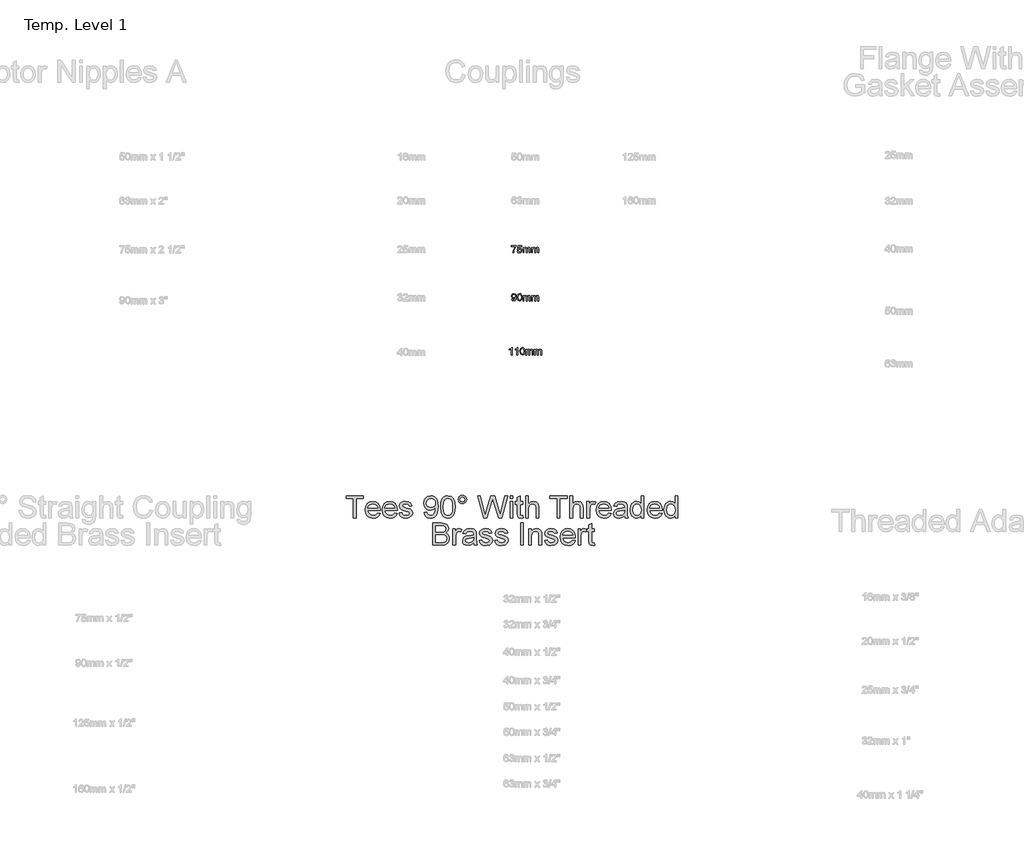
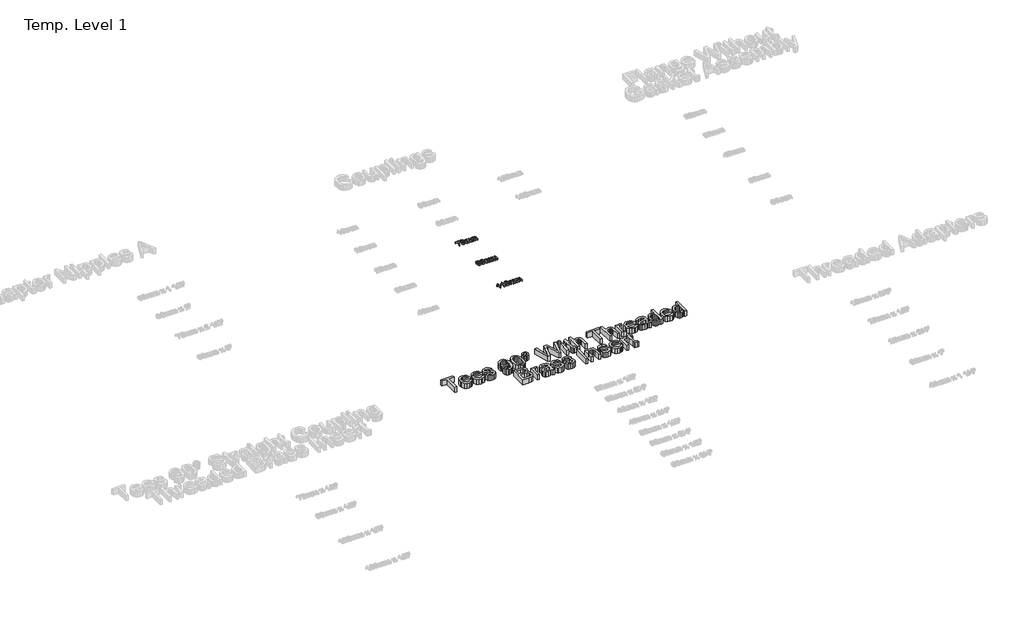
# One storey, part 19 of 62: 4 proxies.
"""IFC4 building model written with IfcOpenShell, lengths in millimetres."""

import ifcopenshell
import ifcopenshell.guid

model = None  # the IFC model being written
_history = None  # IfcOwnerHistory: only IFC2X3 demands one
_inside = {}  # id of a spatial element -> (the spatial element, [elements in it])
_under = {}  # id of a project, library or spatial element -> (it, [spatial elements below it])
_declared = {}  # id of a project -> (the project, [libraries it declares])
_typed = {}  # id of a type object -> (the type object, [elements of that type])
_made_of = {}  # id of a material, layer set ... -> (it, [elements and type objects made of it])


def new_model(schema):
    """Start an empty IFC model of exactly this schema.

    Asked for "IFC4X3", IfcOpenShell would pick the latest addendum, in which some entities
    have other attributes; the version numbers below select the first issue.
    IFC2X3 requires an IfcOwnerHistory on every rooted entity: one is made here for all.
    """
    global model, _history
    if schema == "IFC4X3":
        model = ifcopenshell.file(schema_version=(4, 3, 0, 0))
    else:
        model = ifcopenshell.file(schema=schema)
    _inside.clear()
    _under.clear()
    _declared.clear()
    _typed.clear()
    _made_of.clear()
    _history = None
    if model.schema == "IFC2X3":
        org = make("IfcOrganization", Name="unknown")
        user = make(
            "IfcPersonAndOrganization",
            ThePerson=make("IfcPerson", FamilyName="unknown"),
            TheOrganization=org,
        )
        app = make(
            "IfcApplication",
            ApplicationDeveloper=org,
            Version="unknown",
            ApplicationFullName="unknown",
            ApplicationIdentifier="unknown",
        )
        _history = make(
            "IfcOwnerHistory",
            OwningUser=user,
            OwningApplication=app,
            ChangeAction="ADDED",
            CreationDate=0,
        )
    return model


def make(cls, **values):
    """One entity of the class cls with the attributes given. An attribute that is None is left unset."""
    return model.create_entity(
        cls, **{name: value for name, value in values.items() if value is not None}
    )


def rooted(cls, **values):
    """An entity with a GlobalId (a new one), such as an element, a storey or a relation."""
    return make(cls, GlobalId=ifcopenshell.guid.new(), OwnerHistory=_history, **values)


def si_unit(unit_type, name, prefix=None):
    """IfcSIUnit, for example si_unit("LENGTHUNIT", "METRE", prefix="MILLI")."""
    return make("IfcSIUnit", UnitType=unit_type, Prefix=prefix, Name=name)


def assignment(units):
    """IfcUnitAssignment: the units of a project."""
    return None if units is None else make("IfcUnitAssignment", Units=units)


def point(xyz):
    """IfcCartesianPoint."""
    return None if xyz is None else make("IfcCartesianPoint", Coordinates=xyz)


def direction(xyz):
    """IfcDirection."""
    return None if xyz is None else make("IfcDirection", DirectionRatios=xyz)


def frame(location, z_axis=None, x_axis=None):
    """IfcAxis2Placement3D, a coordinate frame: its origin and axes. An axis left out is left unset."""
    return make(
        "IfcAxis2Placement3D",
        Location=point(location),
        Axis=direction(z_axis),
        RefDirection=direction(x_axis),
    )


def origin():
    """The frame at (0, 0, 0) with its axes left unset."""
    return frame((0.0, 0.0, 0.0))


def origin_with_axes():
    """The frame at (0, 0, 0) with the z axis (0, 0, 1) and the x axis (1, 0, 0) written out."""
    return frame((0.0, 0.0, 0.0), z_axis=(0.0, 0.0, 1.0), x_axis=(1.0, 0.0, 0.0))


def place(relative_to, where):
    """IfcLocalPlacement: puts the frame where relative to a parent placement (None: the world)."""
    return make(
        "IfcLocalPlacement", PlacementRelTo=relative_to, RelativePlacement=where
    )


def context(
    kind, dimensions, precision=None, world=None, true_north=None, identifier=None
):
    """IfcGeometricRepresentationContext, for example the 3D "Model" context."""
    return make(
        "IfcGeometricRepresentationContext",
        ContextIdentifier=identifier,
        ContextType=kind,
        CoordinateSpaceDimension=dimensions,
        Precision=precision,
        WorldCoordinateSystem=world,
        TrueNorth=true_north,
    )


def project(units=None, contexts=None):
    """IfcProject with its units and contexts."""
    return rooted(
        "IfcProject",
        Name="project",
        RepresentationContexts=contexts,
        UnitsInContext=assignment(units),
    )


def spatial(cls, under=None, at=None, **own):
    """A site, building, storey or space (cls), placed at a placement, below another one or the project."""
    s = rooted(cls, ObjectPlacement=at, **own)
    if under is not None:
        _under.setdefault(under.id(), (under, []))[1].append(s)
    return s


def polyline(points):
    """IfcPolyline through the points."""
    return make("IfcPolyline", Points=[point(p) for p in points])


def outline(outer, holes=None, kind="AREA"):
    """IfcArbitraryClosedProfileDef: a profile drawn as a closed curve; with holes, ...WithVoids."""
    if holes is None:
        return make("IfcArbitraryClosedProfileDef", ProfileType=kind, OuterCurve=outer)
    return make(
        "IfcArbitraryProfileDefWithVoids",
        ProfileType=kind,
        OuterCurve=outer,
        InnerCurves=holes,
    )


def extrude(swept, where, along, depth):
    """IfcExtrudedAreaSolid: the profile swept, set in the frame where, extruded along a direction by depth."""
    return make(
        "IfcExtrudedAreaSolid",
        SweptArea=swept,
        Position=where,
        ExtrudedDirection=direction(along),
        Depth=depth,
    )


def shape(context_of_items, identifier, shape_type, items):
    """IfcShapeRepresentation: the items that make up one representation, for example the "Body"."""
    return make(
        "IfcShapeRepresentation",
        ContextOfItems=context_of_items,
        RepresentationIdentifier=identifier,
        RepresentationType=shape_type,
        Items=items,
    )


def made_of(thing, what):
    """Note that an element or type object is made of a material, layer set ...; save() writes the relation."""
    if what is not None:
        _made_of.setdefault(what.id(), (what, []))[1].append(thing)
    return thing


def element(
    cls,
    number,
    at=None,
    inside=None,
    cuts=None,
    type_object=None,
    material=None,
    context=None,
    identifier="Body",
    shape_type=None,
    held_by="IfcProductDefinitionShape",
    body=None,
    shapes=None,
    **own,
):
    """One element of the class cls, such as IfcWall. Its Tag is "e" and its number.

    at: its placement. inside: the storey or other place that contains it. cuts: it is an
    opening in that element (IfcRelVoidsElement). A single representation is given by context,
    identifier, shape_type and body (its items); several are given by shapes. held_by: the class
    of the entity that holds the representations. save() writes the other relations.
    """
    e = rooted(cls, Tag="e%d" % number, ObjectPlacement=at, **own)
    if body is not None:
        shapes = [shape(context, identifier, shape_type, body)]
    if shapes is not None:
        e.Representation = make(held_by, Representations=shapes)
    if inside is not None:
        _inside.setdefault(inside.id(), (inside, []))[1].append(e)
    if cuts is not None:
        rooted(
            "IfcRelVoidsElement", RelatingBuildingElement=cuts, RelatedOpeningElement=e
        )
    if type_object is not None:
        _typed.setdefault(type_object.id(), (type_object, []))[1].append(e)
    return made_of(e, material)


def aggregate(whole, parts):
    """IfcRelAggregates: a whole, such as a stair, and the parts it consists of."""
    return rooted("IfcRelAggregates", RelatingObject=whole, RelatedObjects=parts)


def save(model, path):
    """Write the relations noted so far, then the file.

    IfcRelAggregates (storeys below a building ...), IfcRelContainedInSpatialStructure (elements
    in a storey), IfcRelDefinesByType, IfcRelAssociatesMaterial and IfcRelDeclares: one each for
    every whole, place, type object, material and project.
    """
    for whole, parts in _under.values():
        aggregate(whole, parts)
    for where, things in _inside.values():
        rooted(
            "IfcRelContainedInSpatialStructure",
            RelatedElements=things,
            RelatingStructure=where,
        )
    for kind, things in _typed.values():
        rooted("IfcRelDefinesByType", RelatedObjects=things, RelatingType=kind)
    for what, things in _made_of.values():
        rooted("IfcRelAssociatesMaterial", RelatedObjects=things, RelatingMaterial=what)
    for by, libraries in _declared.values():
        rooted("IfcRelDeclares", RelatingContext=by, RelatedDefinitions=libraries)
    model.write(path)


model = new_model("IFC4")

# Units and contexts
model_context = context("Model", 3, world=origin())
ifc_project = project(units=[si_unit("LENGTHUNIT", "METRE", prefix="MILLI")], contexts=[model_context])

# Site, building, storey
site = spatial("IfcSite", under=ifc_project)
building = spatial("IfcBuilding", under=site)
storey = spatial("IfcBuildingStorey", under=building, Name="Temp. Level 1", Elevation=0.0)

# Proxies
placement = place(None, origin())
element("IfcBuildingElementProxy", 1, Name="150mm Arial", ObjectType="150mm Arial", at=placement, inside=storey, context=model_context, shape_type="SweptSolid", body=[
    extrude(outline(polyline([(17356.5022519, -9979.0446709), (17356.5022519, -9849.8139016), (17308.0407135, -9849.8139016), (17308.0407135, -9831.3523632), (17423.4253288, -9831.3523632), (17423.4253288, -9849.8139016), (17374.9637904, -9849.8139016), (17374.9637904, -9979.0446709), (17356.5022519, -9979.0446709)])), origin_with_axes(), (0.0, 0.0, 1.0), 50.0),
    extrude(outline(polyline([(17517.8243673, -9946.7369786), (17535.9253288, -9949.0446709), (17529.4033938, -9962.683493), (17518.9962423, -9972.8788055), (17504.9382495, -9979.2339737), (17487.4637904, -9981.3523632), (17465.8021317, -9977.6970146), (17449.1344635, -9966.7309689), (17438.5064587, -9949.1663656), (17434.9637904, -9925.7153439), (17438.5425163, -9901.4755603), (17449.2786942, -9883.3475555), (17465.7210019, -9872.0434689), (17486.4181173, -9868.2754401), (17506.4707014, -9872.0344545), (17522.4938385, -9883.3114978), (17533.0001486, -9901.4034449), (17536.5022519, -9925.6071709), (17536.3940788, -9930.5831324), (17453.4253288, -9930.5831324), (17456.6209418, -9944.402243), (17464.0443192, -9954.5614978), (17474.7579611, -9960.808493), (17487.8243673, -9962.8908247), (17505.9253288, -9959.0326516), (17517.8243673, -9946.7369786)]), holes=[polyline([(17453.4253288, -9912.1215939), (17518.0407135, -9912.1215939), (17515.5437183, -9902.3679882), (17510.6488865, -9895.3908247), (17499.8856654, -9888.9004401), (17486.3460019, -9886.7369786), (17473.9015909, -9888.4632406), (17463.6116269, -9893.6420266), (17456.4586822, -9901.7144425), (17453.4253288, -9912.1215939)])]), origin_with_axes(), (0.0, 0.0, 1.0), 50.0),
    extrude(outline(polyline([(17630.9012904, -9946.7369786), (17649.0022519, -9949.0446709), (17642.4803168, -9962.683493), (17632.0731654, -9972.8788055), (17618.0151726, -9979.2339737), (17600.5407135, -9981.3523632), (17578.8790548, -9977.6970146), (17562.2113865, -9966.7309689), (17551.5833817, -9949.1663656), (17548.0407135, -9925.7153439), (17551.6194394, -9901.4755603), (17562.3556173, -9883.3475555), (17578.797925, -9872.0434689), (17599.4950404, -9868.2754401), (17619.5476245, -9872.0344545), (17635.5707615, -9883.3114978), (17646.0770716, -9901.4034449), (17649.579175, -9925.6071709), (17649.4710019, -9930.5831324), (17566.5022519, -9930.5831324), (17569.6978649, -9944.402243), (17577.1212423, -9954.5614978), (17587.8348841, -9960.808493), (17600.9012904, -9962.8908247), (17619.0022519, -9959.0326516), (17630.9012904, -9946.7369786)]), holes=[polyline([(17566.5022519, -9912.1215939), (17631.1176365, -9912.1215939), (17628.6206413, -9902.3679882), (17623.7258096, -9895.3908247), (17612.9625885, -9888.9004401), (17599.422925, -9886.7369786), (17586.9785139, -9888.4632406), (17576.68855, -9893.6420266), (17569.5356053, -9901.7144425), (17566.5022519, -9912.1215939)])]), origin_with_axes(), (0.0, 0.0, 1.0), 50.0),
    extrude(outline(polyline([(17661.1176365, -9946.7369786), (17679.579175, -9944.4292862), (17682.4908337, -9952.3259209), (17688.1248481, -9958.1312093), (17707.704175, -9962.8908247), (17726.5262904, -9958.5278439), (17732.6560981, -9948.2874593), (17726.4902327, -9939.9941901), (17707.4878288, -9934.729767), (17679.6873481, -9925.6973151), (17667.5539346, -9915.1504401), (17663.4253288, -9900.2586132), (17666.7426365, -9886.5026036), (17675.7931173, -9875.9917862), (17687.5298962, -9870.5290459), (17703.4133096, -9868.2754401), (17725.8772519, -9871.8992382), (17740.1560981, -9881.7069305), (17746.5022519, -9898.2754401), (17728.0407135, -9900.5831324), (17721.0996077, -9890.3968343), (17704.8556173, -9886.7369786), (17687.1873481, -9890.2345747), (17681.8868673, -9898.3836132), (17684.0863865, -9903.7562093), (17690.9734058, -9907.8307286), (17706.8748481, -9911.761017), (17733.9722038, -9920.4509209), (17746.5563385, -9930.2946709), (17751.1176365, -9946.3403439), (17745.7630692, -9964.0086132), (17730.3123481, -9976.8271228), (17707.4517712, -9981.3523632), (17688.8369875, -9979.1708728), (17675.2522519, -9972.6264016), (17666.1837423, -9961.7910651), (17661.1176365, -9946.7369786)])), origin_with_axes(), (0.0, 0.0, 1.0), 50.0),
    extrude(outline(polyline([(17827.2714827, -9942.1215939), (17845.7330212, -9939.8139016), (17848.8880692, -9950.2931685), (17854.0262904, -9957.4280843), (17869.7474442, -9962.8908247), (17884.6933577, -9959.3751997), (17894.8255692, -9949.9821709), (17900.8652327, -9933.9364978), (17903.5335019, -9912.5182286), (17903.4253288, -9908.9124593), (17888.6597038, -9922.9028439), (17868.4133096, -9928.2754401), (17851.5788745, -9924.9941901), (17837.5659538, -9915.1504401), (17828.1143313, -9899.9431084), (17824.9637904, -9880.5711132), (17828.2675764, -9860.5590939), (17838.1789346, -9844.8739978), (17853.0662543, -9834.7327718), (17871.297925, -9831.3523632), (17885.0674563, -9833.2814497), (17897.6020115, -9839.0687093), (17908.0857856, -9848.4256805), (17915.7029731, -9861.0639016), (17920.3408938, -9878.5338536), (17921.8868673, -9902.386017), (17920.345401, -9927.675981), (17915.7210019, -9947.2237574), (17908.0542351, -9961.9127598), (17897.3856654, -9972.6264016), (17884.1750284, -9979.1708728), (17868.8820596, -9981.3523632), (17853.0978048, -9978.7787454), (17840.5046558, -9971.057892), (17831.6975644, -9958.6765819), (17827.2714827, -9942.1215939)]), holes=[polyline([(17903.4253288, -9880.1384209), (17901.4331413, -9867.6264016), (17895.4565788, -9857.9989978), (17886.1807375, -9851.8601757), (17874.2907135, -9849.8139016), (17861.9589827, -9852.0179281), (17852.079175, -9858.6300074), (17845.5887904, -9868.7486973), (17843.4253288, -9881.4725555), (17845.4716029, -9892.8803079), (17851.610425, -9901.9352959), (17861.2468433, -9907.8442502), (17873.7859058, -9909.8139016), (17885.5812784, -9907.8442502), (17895.0779731, -9901.9352959), (17901.3384899, -9892.5467742), (17903.4253288, -9880.1384209)])]), origin_with_axes(), (0.0, 0.0, 1.0), 50.0),
    extrude(outline(polyline([(17938.0407135, -9906.3884209), (17939.3973841, -9882.7480963), (17943.4673962, -9863.8944305), (17950.2101846, -9849.5389617), (17959.5851846, -9839.3932286), (17971.6600043, -9833.3625795), (17986.5022519, -9831.3523632), (18008.0647519, -9836.1119786), (18022.9565788, -9849.8319305), (18031.610425, -9871.682892), (18034.9637904, -9906.3884209), (18033.6206413, -9929.893529), (18029.5911942, -9948.7021228), (18022.8889707, -9963.0711132), (18013.5274923, -9973.2574112), (18001.4256293, -9979.3286252), (17986.5022519, -9981.3523632), (17967.3195596, -9977.8367382), (17952.7522519, -9967.2898632), (17941.7185981, -9942.3108968), (17938.0407135, -9906.3884209)]), holes=[polyline([(17956.5022519, -9906.3523632), (17958.6657135, -9935.3923271), (17965.1560981, -9952.1997189), (17974.8195596, -9960.2180483), (17986.5022519, -9962.8908247), (17998.1849442, -9960.2090338), (18007.8484058, -9952.1636612), (18014.3387904, -9935.347255), (18016.5022519, -9906.3523632), (18014.4109058, -9877.9659449), (18008.1368673, -9861.0278439), (17998.4914346, -9852.6173872), (17986.2859058, -9849.8139016), (17974.7294154, -9852.2838536), (17965.4445596, -9859.6937093), (17958.7378288, -9877.6864978), (17956.5022519, -9906.3523632)])]), origin_with_axes(), (0.0, 0.0, 1.0), 50.0),
    extrude(outline(polyline([(18055.7330212, -9856.7009209), (18057.7657736, -9846.0548872), (18063.8640308, -9837.1215939), (18072.8108457, -9831.0639016), (18083.3892712, -9829.0446709), (18094.0893913, -9831.0639016), (18103.0407135, -9837.1215939), (18109.0984058, -9846.0548872), (18111.1176365, -9856.7009209), (18109.0848841, -9867.3334329), (18102.9866269, -9876.2982766), (18094.0217832, -9882.3965338), (18083.3892712, -9884.4292862), (18072.8108457, -9882.4100555), (18063.8640308, -9876.3523632), (18057.7657736, -9867.4010411), (18055.7330212, -9856.7009209)]), holes=[polyline([(18067.2714827, -9856.7369786), (18072.0130692, -9868.167267), (18083.4613865, -9872.8908247), (18094.8375885, -9868.167267), (18099.579175, -9856.7369786), (18094.8375885, -9845.3066901), (18083.4613865, -9840.5831324), (18072.0130692, -9845.3066901), (18067.2714827, -9856.7369786)])]), origin_with_axes(), (0.0, 0.0, 1.0), 50.0),
    extrude(outline(polyline([(18225.2402327, -9979.0446709), (18184.9637904, -9831.3523632), (18204.0022519, -9831.3523632), (18227.3676365, -9928.4196709), (18234.579175, -9958.3836132), (18242.2955212, -9931.8812093), (18271.5743673, -9831.3523632), (18299.0142712, -9831.3523632), (18320.2883096, -9904.2249593), (18336.1176365, -9958.3836132), (18343.1128288, -9929.2850555), (18366.6945596, -9831.3523632), (18385.7330212, -9831.3523632), (18345.4205212, -9979.0446709), (18325.6969635, -9979.0446709), (18290.2883096, -9865.1023632), (18285.3484058, -9849.2009209), (18279.7955212, -9868.3475555), (18247.5238865, -9979.0446709), (18225.2402327, -9979.0446709)])), origin_with_axes(), (0.0, 0.0, 1.0), 50.0),
    extrude(outline(polyline([(18401.8868673, -9979.0446709), (18401.8868673, -9870.5831324), (18420.3484058, -9870.5831324), (18420.3484058, -9979.0446709), (18401.8868673, -9979.0446709)])), origin_with_axes(), (0.0, 0.0, 1.0), 50.0),
    extrude(outline(polyline([(18401.8868673, -9849.8139016), (18401.8868673, -9831.3523632), (18420.3484058, -9831.3523632), (18420.3484058, -9849.8139016), (18401.8868673, -9849.8139016)])), origin_with_axes(), (0.0, 0.0, 1.0), 50.0),
    extrude(outline(polyline([(18487.2714827, -9963.6480362), (18489.579175, -9979.5855362), (18475.7690788, -9981.3523632), (18460.3003288, -9978.2874593), (18452.5839827, -9970.2465939), (18450.3484058, -9949.2970747), (18450.3484058, -9889.0446709), (18436.5022519, -9889.0446709), (18436.5022519, -9870.5831324), (18450.3484058, -9870.5831324), (18450.3484058, -9844.2249593), (18468.8099442, -9833.3715939), (18468.8099442, -9870.5831324), (18487.2714827, -9870.5831324), (18487.2714827, -9889.0446709), (18468.8099442, -9889.0446709), (18468.8099442, -9948.7562093), (18469.7835019, -9958.2754401), (18472.93855, -9961.6468343), (18479.2306173, -9962.8908247), (18487.2714827, -9963.6480362)])), origin_with_axes(), (0.0, 0.0, 1.0), 50.0),
    extrude(outline(polyline([(18505.7330212, -9979.0446709), (18505.7330212, -9831.3523632), (18524.1945596, -9831.3523632), (18524.1945596, -9885.6552478), (18538.5905933, -9872.620392), (18556.3219635, -9868.2754401), (18577.0551365, -9873.0170266), (18589.6392712, -9886.1239978), (18593.4253288, -9910.3908247), (18593.4253288, -9979.0446709), (18574.9637904, -9979.0446709), (18574.9637904, -9912.3018824), (18573.4944394, -9900.745392), (18569.0863865, -9892.8307286), (18561.9830212, -9888.2604161), (18552.4277327, -9886.7369786), (18537.3015308, -9890.8475555), (18527.2053769, -9901.9893824), (18524.1945596, -9921.4244786), (18524.1945596, -9979.0446709), (18505.7330212, -9979.0446709)])), origin_with_axes(), (0.0, 0.0, 1.0), 50.0),
    extrude(outline(polyline([(18715.7330212, -9979.0446709), (18715.7330212, -9849.8139016), (18667.2714827, -9849.8139016), (18667.2714827, -9831.3523632), (18782.6560981, -9831.3523632), (18782.6560981, -9849.8139016), (18734.1945596, -9849.8139016), (18734.1945596, -9979.0446709), (18715.7330212, -9979.0446709)])), origin_with_axes(), (0.0, 0.0, 1.0), 50.0),
    extrude(outline(polyline([(18801.1176365, -9979.0446709), (18801.1176365, -9831.3523632), (18819.579175, -9831.3523632), (18819.579175, -9885.6552478), (18833.9752087, -9872.620392), (18851.7065788, -9868.2754401), (18872.4397519, -9873.0170266), (18885.0238865, -9886.1239978), (18888.8099442, -9910.3908247), (18888.8099442, -9979.0446709), (18870.3484058, -9979.0446709), (18870.3484058, -9912.3018824), (18868.8790548, -9900.745392), (18864.4710019, -9892.8307286), (18857.3676365, -9888.2604161), (18847.8123481, -9886.7369786), (18832.6861462, -9890.8475555), (18822.5899923, -9901.9893824), (18819.579175, -9921.4244786), (18819.579175, -9979.0446709), (18801.1176365, -9979.0446709)])), origin_with_axes(), (0.0, 0.0, 1.0), 50.0),
    extrude(outline(polyline([(18914.1945596, -9979.0446709), (18914.1945596, -9870.5831324), (18930.3484058, -9870.5831324), (18930.3484058, -9886.6288055), (18941.8147519, -9871.8451516), (18953.3532135, -9868.2754401), (18971.8868673, -9873.9725555), (18965.7210019, -9890.5230362), (18952.7402327, -9886.7369786), (18942.3015308, -9890.3788055), (18935.6488865, -9900.4749593), (18932.6560981, -9922.0374593), (18932.6560981, -9979.0446709), (18914.1945596, -9979.0446709)])), origin_with_axes(), (0.0, 0.0, 1.0), 50.0),
    extrude(outline(polyline([(19059.3628288, -9946.7369786), (19077.4637904, -9949.0446709), (19070.9418553, -9962.683493), (19060.5347038, -9972.8788055), (19046.4767111, -9979.2339737), (19029.0022519, -9981.3523632), (19007.3405933, -9977.6970146), (18990.672925, -9966.7309689), (18980.0449202, -9949.1663656), (18976.5022519, -9925.7153439), (18980.0809779, -9901.4755603), (18990.8171558, -9883.3475555), (19007.2594635, -9872.0434689), (19027.9565788, -9868.2754401), (19048.009163, -9872.0344545), (19064.0323, -9883.3114978), (19074.5386101, -9901.4034449), (19078.0407135, -9925.6071709), (19077.9325404, -9930.5831324), (18994.9637904, -9930.5831324), (18998.1594034, -9944.402243), (19005.5827808, -9954.5614978), (19016.2964226, -9960.808493), (19029.3628288, -9962.8908247), (19047.4637904, -9959.0326516), (19059.3628288, -9946.7369786)]), holes=[polyline([(18994.9637904, -9912.1215939), (19059.579175, -9912.1215939), (19057.0821798, -9902.3679882), (19052.1873481, -9895.3908247), (19041.4241269, -9888.9004401), (19027.8844635, -9886.7369786), (19015.4400524, -9888.4632406), (19005.1500885, -9893.6420266), (18997.9971438, -9901.7144425), (18994.9637904, -9912.1215939)])]), origin_with_axes(), (0.0, 0.0, 1.0), 50.0),
    extrude(outline(polyline([(19165.7330212, -9965.198517), (19147.8303769, -9977.7105362), (19128.0527327, -9981.3523632), (19112.6245476, -9979.1618584), (19101.2438385, -9972.5903439), (19094.2261101, -9962.6113776), (19091.8868673, -9950.198517), (19095.4205212, -9935.5951516), (19104.7053769, -9924.9941901), (19117.6320596, -9918.9364978), (19133.6056173, -9916.1600555), (19165.6248481, -9909.8139016), (19165.7330212, -9905.7033247), (19164.4619875, -9897.464142), (19160.6488865, -9892.073517), (19152.1212423, -9888.0711132), (19140.2402327, -9886.7369786), (19121.5623481, -9890.2886612), (19112.6560981, -9902.8908247), (19094.1945596, -9900.5831324), (19102.1813385, -9882.5542862), (19118.2630692, -9871.9893824), (19142.6200404, -9868.2754401), (19164.9938385, -9871.5566901), (19177.6320596, -9879.7958728), (19183.2931173, -9892.3259209), (19184.1945596, -9908.479767), (19184.1945596, -9931.448517), (19185.1320596, -9963.5218343), (19188.8099442, -9979.0446709), (19170.3484058, -9979.0446709), (19165.7330212, -9965.198517)]), holes=[polyline([(19165.7330212, -9928.2754401), (19135.9493673, -9933.9364978), (19120.0659538, -9936.9292862), (19112.8724442, -9941.7970747), (19110.3484058, -9948.9004401), (19115.8472038, -9958.8884209), (19131.9830212, -9962.8908247), (19150.6609058, -9958.4737574), (19162.704175, -9947.7826516), (19165.6248481, -9933.5038055), (19165.7330212, -9928.2754401)])]), origin_with_axes(), (0.0, 0.0, 1.0), 50.0),
    extrude(outline(polyline([(19276.5022519, -9979.0446709), (19276.5022519, -9961.6288055), (19264.2877087, -9976.4214737), (19247.4036942, -9981.3523632), (19235.4685981, -9979.5675074), (19224.5431173, -9974.2129401), (19215.2943192, -9965.6627598), (19208.3892712, -9954.2910651), (19204.0893913, -9940.5575915), (19202.6560981, -9924.9220747), (19207.93855, -9895.5350555), (19214.5371077, -9883.8794064), (19223.7678769, -9875.3066901), (19234.9322399, -9870.0332526), (19247.3315788, -9868.2754401), (19264.3508096, -9873.3054882), (19276.5022519, -9886.3764016), (19276.5022519, -9831.3523632), (19294.9637904, -9831.3523632), (19294.9637904, -9979.0446709), (19276.5022519, -9979.0446709)]), holes=[polyline([(19221.1176365, -9924.8499593), (19223.1999683, -9941.5491781), (19229.4469635, -9953.4256805), (19238.5244875, -9960.5245387), (19249.0984058, -9962.8908247), (19259.6678168, -9960.6327117), (19268.5154731, -9953.8583728), (19274.5055572, -9942.441606), (19276.5022519, -9926.2562093), (19274.4694995, -9908.5608968), (19268.3712423, -9896.292267), (19259.2982255, -9889.1258007), (19248.3411942, -9886.7369786), (19237.6591029, -9889.0311492), (19228.9060981, -9895.9136612), (19223.0647519, -9907.7360771), (19221.1176365, -9924.8499593)])]), origin_with_axes(), (0.0, 0.0, 1.0), 50.0),
    extrude(outline(polyline([(19398.5935981, -9946.7369786), (19416.6945596, -9949.0446709), (19410.1726245, -9962.683493), (19399.7654731, -9972.8788055), (19385.7074803, -9979.2339737), (19368.2330212, -9981.3523632), (19346.5713625, -9977.6970146), (19329.9036942, -9966.7309689), (19319.2756894, -9949.1663656), (19315.7330212, -9925.7153439), (19319.3117471, -9901.4755603), (19330.047925, -9883.3475555), (19346.4902327, -9872.0434689), (19367.1873481, -9868.2754401), (19387.2399322, -9872.0344545), (19403.2630692, -9883.3114978), (19413.7693793, -9901.4034449), (19417.2714827, -9925.6071709), (19417.1633096, -9930.5831324), (19334.1945596, -9930.5831324), (19337.3901726, -9944.402243), (19344.81355, -9954.5614978), (19355.5271918, -9960.808493), (19368.5935981, -9962.8908247), (19386.6945596, -9959.0326516), (19398.5935981, -9946.7369786)]), holes=[polyline([(19334.1945596, -9912.1215939), (19398.8099442, -9912.1215939), (19396.312949, -9902.3679882), (19391.4181173, -9895.3908247), (19380.6548962, -9888.9004401), (19367.1152327, -9886.7369786), (19354.6708216, -9888.4632406), (19344.3808577, -9893.6420266), (19337.227913, -9901.7144425), (19334.1945596, -9912.1215939)])]), origin_with_axes(), (0.0, 0.0, 1.0), 50.0),
    extrude(outline(polyline([(19502.6560981, -9979.0446709), (19502.6560981, -9961.6288055), (19490.4415548, -9976.4214737), (19473.5575404, -9981.3523632), (19461.6224442, -9979.5675074), (19450.6969635, -9974.2129401), (19441.4481654, -9965.6627598), (19434.5431173, -9954.2910651), (19430.2432375, -9940.5575915), (19428.8099442, -9924.9220747), (19434.0923962, -9895.5350555), (19440.6909538, -9883.8794064), (19449.9217231, -9875.3066901), (19461.0860861, -9870.0332526), (19473.485425, -9868.2754401), (19490.5046558, -9873.3054882), (19502.6560981, -9886.3764016), (19502.6560981, -9831.3523632), (19521.1176365, -9831.3523632), (19521.1176365, -9979.0446709), (19502.6560981, -9979.0446709)]), holes=[polyline([(19447.2714827, -9924.8499593), (19449.3538144, -9941.5491781), (19455.6008096, -9953.4256805), (19464.6783337, -9960.5245387), (19475.2522519, -9962.8908247), (19485.821663, -9960.6327117), (19494.6693192, -9953.8583728), (19500.6594034, -9942.441606), (19502.6560981, -9926.2562093), (19500.6233457, -9908.5608968), (19494.5250885, -9896.292267), (19485.4520716, -9889.1258007), (19474.4950404, -9886.7369786), (19463.812949, -9889.0311492), (19455.0599442, -9895.9136612), (19449.2185981, -9907.7360771), (19447.2714827, -9924.8499593)])]), origin_with_axes(), (0.0, 0.0, 1.0), 50.0),
    extrude(outline(polyline([(17886.1176365, -10161.3523632), (17886.1176365, -10013.6600555), (17942.4758096, -10013.6600555), (17970.0779731, -10018.0050074), (17979.3538144, -10023.5173271), (17986.37605, -10031.3643824), (17992.2714827, -10050.2586132), (17987.31355, -10067.5122189), (17972.3315788, -10080.5831324), (17982.7928168, -10086.0458728), (17990.5226846, -10094.3571709), (17995.2958216, -10104.9671468), (17996.8868673, -10117.3259209), (17992.5419154, -10137.1756805), (17981.7786942, -10151.3102959), (17965.7149923, -10158.8102959), (17942.0431173, -10161.3523632), (17886.1176365, -10161.3523632)]), holes=[polyline([(17904.579175, -10142.8908247), (17942.4397519, -10142.8908247), (17956.141675, -10142.1696709), (17967.7342231, -10138.1492382), (17975.4145115, -10129.9461132), (17978.4253288, -10117.5062093), (17974.891675, -10103.1552478), (17963.4433577, -10094.5915459), (17940.6368673, -10092.1215939), (17904.579175, -10092.1215939), (17904.579175, -10142.8908247)]), polyline([(17904.579175, -10073.6600555), (17938.2931173, -10073.6600555), (17957.9806173, -10072.073517), (17969.8255692, -10065.2405843), (17973.8099442, -10053.2153439), (17970.0960019, -10041.1720747), (17959.4589827, -10034.0506805), (17935.7330212, -10032.1215939), (17904.579175, -10032.1215939), (17904.579175, -10073.6600555)])]), origin_with_axes(), (0.0, 0.0, 1.0), 50.0),
    extrude(outline(polyline([(18019.9637904, -10161.3523632), (18019.9637904, -10052.8908247), (18036.1176365, -10052.8908247), (18036.1176365, -10068.9364978), (18047.5839827, -10054.1528439), (18059.1224442, -10050.5831324), (18077.6560981, -10056.2802478), (18071.4902327, -10072.8307286), (18058.5094635, -10069.0446709), (18048.0707615, -10072.6864978), (18041.4181173, -10082.7826516), (18038.4253288, -10104.3451516), (18038.4253288, -10161.3523632), (18019.9637904, -10161.3523632)])), origin_with_axes(), (0.0, 0.0, 1.0), 50.0),
    extrude(outline(polyline([(18158.4253288, -10147.5062093), (18140.5226846, -10160.0182286), (18120.7450404, -10163.6600555), (18105.3168553, -10161.4695507), (18093.9361462, -10154.8980362), (18086.9184178, -10144.9190699), (18084.579175, -10132.5062093), (18088.1128288, -10117.9028439), (18097.3976846, -10107.3018824), (18110.3243673, -10101.2441901), (18126.297925, -10098.4677478), (18158.3171558, -10092.1215939), (18158.4253288, -10088.011017), (18157.1542952, -10079.7718343), (18153.3411942, -10074.3812093), (18144.81355, -10070.3788055), (18132.9325404, -10069.0446709), (18114.2546558, -10072.5963536), (18105.3484058, -10085.198517), (18086.8868673, -10082.8908247), (18094.8736462, -10064.8619786), (18110.9553769, -10054.2970747), (18135.3123481, -10050.5831324), (18157.6861462, -10053.8643824), (18170.3243673, -10062.1035651), (18175.985425, -10074.6336132), (18176.8868673, -10090.7874593), (18176.8868673, -10113.7562093), (18177.8243673, -10145.8295266), (18181.5022519, -10161.3523632), (18163.0407135, -10161.3523632), (18158.4253288, -10147.5062093)]), holes=[polyline([(18158.4253288, -10110.5831324), (18128.641675, -10116.2441901), (18112.7582615, -10119.2369786), (18105.5647519, -10124.104767), (18103.0407135, -10131.2081324), (18108.5395115, -10141.1961132), (18124.6753288, -10145.198517), (18143.3532135, -10140.7814497), (18155.3964827, -10130.0903439), (18158.3171558, -10115.8114978), (18158.4253288, -10110.5831324)])]), origin_with_axes(), (0.0, 0.0, 1.0), 50.0),
    extrude(outline(polyline([(18195.3484058, -10129.0446709), (18213.8099442, -10126.7369786), (18216.7216029, -10134.6336132), (18222.3556173, -10140.4389016), (18241.9349442, -10145.198517), (18260.7570596, -10140.8355362), (18266.8868673, -10130.5951516), (18260.7210019, -10122.3018824), (18241.7185981, -10117.0374593), (18213.9181173, -10108.0050074), (18201.7847038, -10097.4581324), (18197.6560981, -10082.5663055), (18200.9734058, -10068.8102959), (18210.0238865, -10058.2994786), (18221.7606654, -10052.8367382), (18237.6440788, -10050.5831324), (18260.1080212, -10054.2069305), (18274.3868673, -10064.0146228), (18280.7330212, -10080.5831324), (18262.2714827, -10082.8908247), (18255.3303769, -10072.7045266), (18239.0863865, -10069.0446709), (18221.4181173, -10072.542267), (18216.1176365, -10080.6913055), (18218.3171558, -10086.0639016), (18225.204175, -10090.1384209), (18241.1056173, -10094.0687093), (18268.2029731, -10102.7586132), (18280.7871077, -10112.6023632), (18285.3484058, -10128.6480362), (18279.9938385, -10146.3163055), (18264.5431173, -10159.1348151), (18241.6825404, -10163.6600555), (18223.0677567, -10161.4785651), (18209.4830212, -10154.9340939), (18200.4145115, -10144.0987574), (18195.3484058, -10129.0446709)])), origin_with_axes(), (0.0, 0.0, 1.0), 50.0),
    extrude(outline(polyline([(18299.1945596, -10129.0446709), (18317.6560981, -10126.7369786), (18320.5677567, -10134.6336132), (18326.2017712, -10140.4389016), (18345.7810981, -10145.198517), (18364.6032135, -10140.8355362), (18370.7330212, -10130.5951516), (18364.5671558, -10122.3018824), (18345.5647519, -10117.0374593), (18317.7642712, -10108.0050074), (18305.6308577, -10097.4581324), (18301.5022519, -10082.5663055), (18304.8195596, -10068.8102959), (18313.8700404, -10058.2994786), (18325.6068192, -10052.8367382), (18341.4902327, -10050.5831324), (18363.954175, -10054.2069305), (18378.2330212, -10064.0146228), (18384.579175, -10080.5831324), (18366.1176365, -10082.8908247), (18359.1765308, -10072.7045266), (18342.9325404, -10069.0446709), (18325.2642712, -10072.542267), (18319.9637904, -10080.6913055), (18322.1633096, -10086.0639016), (18329.0503288, -10090.1384209), (18344.9517712, -10094.0687093), (18372.0491269, -10102.7586132), (18384.6332615, -10112.6023632), (18389.1945596, -10128.6480362), (18383.8399923, -10146.3163055), (18368.3892712, -10159.1348151), (18345.5286942, -10163.6600555), (18326.9139106, -10161.4785651), (18313.329175, -10154.9340939), (18304.2606654, -10144.0987574), (18299.1945596, -10129.0446709)])), origin_with_axes(), (0.0, 0.0, 1.0), 50.0),
    extrude(outline(polyline([(18472.2714827, -10161.3523632), (18472.2714827, -10013.6600555), (18490.7330212, -10013.6600555), (18490.7330212, -10161.3523632), (18472.2714827, -10161.3523632)])), origin_with_axes(), (0.0, 0.0, 1.0), 50.0),
    extrude(outline(polyline([(18525.3484058, -10161.3523632), (18525.3484058, -10052.8908247), (18543.8099442, -10052.8908247), (18543.8099442, -10068.0350555), (18557.9265308, -10054.9461132), (18577.1993673, -10050.5831324), (18594.6332615, -10054.0987574), (18606.5323, -10063.3295266), (18612.0671558, -10076.9052478), (18613.0407135, -10094.7538055), (18613.0407135, -10161.3523632), (18594.579175, -10161.3523632), (18594.579175, -10097.2417862), (18592.4517712, -10080.9076516), (18584.9337423, -10072.2718343), (18572.2594635, -10069.0446709), (18561.446663, -10070.8565699), (18552.2294154, -10076.292267), (18545.914812, -10086.7940699), (18543.8099442, -10103.8042862), (18543.8099442, -10161.3523632), (18525.3484058, -10161.3523632)])), origin_with_axes(), (0.0, 0.0, 1.0), 50.0),
    extrude(outline(polyline([(18631.5022519, -10129.0446709), (18649.9637904, -10126.7369786), (18652.875449, -10134.6336132), (18658.5094635, -10140.4389016), (18678.0887904, -10145.198517), (18696.9109058, -10140.8355362), (18703.0407135, -10130.5951516), (18696.8748481, -10122.3018824), (18677.8724442, -10117.0374593), (18650.0719635, -10108.0050074), (18637.93855, -10097.4581324), (18633.8099442, -10082.5663055), (18637.1272519, -10068.8102959), (18646.1777327, -10058.2994786), (18657.9145115, -10052.8367382), (18673.797925, -10050.5831324), (18696.2618673, -10054.2069305), (18710.5407135, -10064.0146228), (18716.8868673, -10080.5831324), (18698.4253288, -10082.8908247), (18691.4842231, -10072.7045266), (18675.2402327, -10069.0446709), (18657.5719635, -10072.542267), (18652.2714827, -10080.6913055), (18654.4710019, -10086.0639016), (18661.3580212, -10090.1384209), (18677.2594635, -10094.0687093), (18704.3568192, -10102.7586132), (18716.9409538, -10112.6023632), (18721.5022519, -10128.6480362), (18716.1476846, -10146.3163055), (18700.6969635, -10159.1348151), (18677.8363865, -10163.6600555), (18659.2216029, -10161.4785651), (18645.6368673, -10154.9340939), (18636.5683577, -10144.0987574), (18631.5022519, -10129.0446709)])), origin_with_axes(), (0.0, 0.0, 1.0), 50.0),
    extrude(outline(polyline([(18818.2089827, -10129.0446709), (18836.3099442, -10131.3523632), (18829.7880091, -10144.9911853), (18819.3808577, -10155.1864978), (18805.3228649, -10161.5416661), (18787.8484058, -10163.6600555), (18766.1867471, -10160.0047069), (18749.5190788, -10149.0386612), (18738.891074, -10131.4740579), (18735.3484058, -10108.0230362), (18738.9271317, -10083.7832526), (18749.6633096, -10065.6552478), (18766.1056173, -10054.3511612), (18786.8027327, -10050.5831324), (18806.8553168, -10054.3421468), (18822.8784538, -10065.6191901), (18833.3847639, -10083.7111372), (18836.8868673, -10107.9148632), (18836.7786942, -10112.8908247), (18753.8099442, -10112.8908247), (18757.0055572, -10126.7099353), (18764.4289346, -10136.8691901), (18775.1425764, -10143.1161853), (18788.2089827, -10145.198517), (18806.3099442, -10141.3403439), (18818.2089827, -10129.0446709)]), holes=[polyline([(18753.8099442, -10094.4292862), (18818.4253288, -10094.4292862), (18815.9283337, -10084.6756805), (18811.0335019, -10077.698517), (18800.2702808, -10071.2081324), (18786.7306173, -10069.0446709), (18774.2862063, -10070.7709329), (18763.9962423, -10075.9497189), (18756.8432976, -10084.0221348), (18753.8099442, -10094.4292862)])]), origin_with_axes(), (0.0, 0.0, 1.0), 50.0),
    extrude(outline(polyline([(18855.3484058, -10161.3523632), (18855.3484058, -10052.8908247), (18871.5022519, -10052.8908247), (18871.5022519, -10068.9364978), (18882.9685981, -10054.1528439), (18894.5070596, -10050.5831324), (18913.0407135, -10056.2802478), (18906.8748481, -10072.8307286), (18893.8940788, -10069.0446709), (18883.4553769, -10072.6864978), (18876.8027327, -10082.7826516), (18873.8099442, -10104.3451516), (18873.8099442, -10161.3523632), (18855.3484058, -10161.3523632)])), origin_with_axes(), (0.0, 0.0, 1.0), 50.0),
    extrude(outline(polyline([(18963.8099442, -10145.9557286), (18966.1176365, -10161.8932286), (18952.3075404, -10163.6600555), (18936.8387904, -10160.5951516), (18929.1224442, -10152.5542862), (18926.8868673, -10131.604767), (18926.8868673, -10071.3523632), (18913.0407135, -10071.3523632), (18913.0407135, -10052.8908247), (18926.8868673, -10052.8908247), (18926.8868673, -10026.5326516), (18945.3484058, -10015.6792862), (18945.3484058, -10052.8908247), (18963.8099442, -10052.8908247), (18963.8099442, -10071.3523632), (18945.3484058, -10071.3523632), (18945.3484058, -10131.0639016), (18946.3219635, -10140.5831324), (18949.4770115, -10143.9545266), (18955.7690788, -10145.198517), (18963.8099442, -10145.9557286)])), origin_with_axes(), (0.0, 0.0, 1.0), 50.0),
])
element("IfcBuildingElementProxy", 2, Name="50mm Arial", ObjectType="50mm Arial", at=placement, inside=storey, context=model_context, shape_type="SweptSolid", body=[
    extrude(outline(polyline([(18411.2361186, -8166.7550796), (18411.2361186, -8160.6012335), (18443.5438109, -8160.6012335), (18443.5438109, -8165.577195), (18434.3791475, -8178.8163777), (18427.3659263, -8195.6853681), (18425.0822725, -8209.0627719), (18418.9284263, -8209.0627719), (18421.3743398, -8195.1805604), (18428.0870802, -8179.4894546), (18437.3899648, -8166.7550796), (18411.2361186, -8166.7550796)])), origin_with_axes(), (0.0, 0.0, 1.0), 15.0),
    extrude(outline(polyline([(18448.9284263, -8195.9858488), (18455.0822725, -8195.2166181), (18458.183234, -8201.5567623), (18464.6135225, -8203.6781565), (18472.3298686, -8200.7274354), (18475.0822725, -8192.8969065), (18472.5041475, -8185.5892142), (18464.7096763, -8182.9089258), (18459.3070321, -8183.9786373), (18455.8515033, -8186.7550796), (18449.6976571, -8185.9858488), (18455.0822725, -8160.6012335), (18478.9284263, -8160.6012335), (18478.9284263, -8166.7550796), (18460.058234, -8166.7550796), (18457.4260225, -8180.3127719), (18466.4284263, -8176.7550796), (18476.9512629, -8181.1661373), (18481.2361186, -8192.5122911), (18477.3779456, -8203.9305604), (18471.8370802, -8208.3566421), (18464.589484, -8209.8320027), (18453.730109, -8206.0399354), (18448.9284263, -8195.9858488)])), origin_with_axes(), (0.0, 0.0, 1.0), 15.0),
    extrude(outline(polyline([(18488.1591956, -8209.0627719), (18488.1591956, -8172.9089258), (18494.3130417, -8172.9089258), (18494.3130417, -8178.858445), (18498.5438109, -8173.9846469), (18504.5654456, -8172.139695), (18510.7313109, -8174.0207046), (18514.120734, -8179.2911373), (18518.9224167, -8173.9275556), (18524.9861186, -8172.139695), (18533.0329936, -8175.1144546), (18535.8515033, -8184.2791181), (18535.8515033, -8209.0627719), (18529.6976571, -8209.0627719), (18529.6976571, -8186.9233488), (18529.1267436, -8181.7851277), (18527.0594359, -8179.2550796), (18523.5438109, -8178.2935411), (18517.4921283, -8180.7574835), (18515.0822725, -8188.6541181), (18515.0822725, -8209.0627719), (18508.9284263, -8209.0627719), (18508.9284263, -8186.2382527), (18507.5041475, -8180.2767142), (18502.8346763, -8178.2935411), (18498.2793879, -8179.6156565), (18495.2505417, -8183.4858488), (18494.3130417, -8190.8295988), (18494.3130417, -8209.0627719), (18488.1591956, -8209.0627719)])), origin_with_axes(), (0.0, 0.0, 1.0), 15.0),
    extrude(outline(polyline([(18545.0822725, -8209.0627719), (18545.0822725, -8172.9089258), (18551.2361186, -8172.9089258), (18551.2361186, -8178.858445), (18555.4668879, -8173.9846469), (18561.4885225, -8172.139695), (18567.6543879, -8174.0207046), (18571.0438109, -8179.2911373), (18575.8454936, -8173.9275556), (18581.9091956, -8172.139695), (18589.9560706, -8175.1144546), (18592.7745802, -8184.2791181), (18592.7745802, -8209.0627719), (18586.620734, -8209.0627719), (18586.620734, -8186.9233488), (18586.0498206, -8181.7851277), (18583.9825129, -8179.2550796), (18580.4668879, -8178.2935411), (18574.4152052, -8180.7574835), (18572.0053494, -8188.6541181), (18572.0053494, -8209.0627719), (18565.8515033, -8209.0627719), (18565.8515033, -8186.2382527), (18564.4272244, -8180.2767142), (18559.7577533, -8178.2935411), (18555.2024648, -8179.6156565), (18552.1736186, -8183.4858488), (18551.2361186, -8190.8295988), (18551.2361186, -8209.0627719), (18545.0822725, -8209.0627719)])), origin_with_axes(), (0.0, 0.0, 1.0), 15.0),
])
element("IfcBuildingElementProxy", 3, Name="50mm Arial", ObjectType="50mm Arial", at=placement, inside=storey, context=model_context, shape_type="SweptSolid", body=[
    extrude(outline(polyline([(18412.0053494, -8517.8908247), (18418.1591956, -8517.1215939), (18420.9236186, -8522.9929882), (18426.1640033, -8524.8139016), (18431.1459744, -8523.6420266), (18434.5233783, -8520.511017), (18436.5365994, -8515.1624593), (18437.4260225, -8508.0230362), (18432.4680898, -8511.4845747), (18425.7192917, -8513.2754401), (18415.4368398, -8508.9004401), (18411.2361186, -8497.3739978), (18415.6411667, -8485.4749593), (18426.6808302, -8480.9677478), (18435.448859, -8483.5398632), (18441.4825129, -8490.8715939), (18443.5438109, -8504.6456324), (18441.4885225, -8519.5915459), (18435.3767436, -8528.0590939), (18425.8755417, -8530.9677478), (18416.4164071, -8527.5362574), (18412.0053494, -8517.8908247)]), holes=[polyline([(18437.3899648, -8497.229767), (18434.7337148, -8489.8499593), (18427.6784263, -8487.1215939), (18420.2745802, -8490.0602959), (18417.3899648, -8497.6744786), (18420.1183302, -8504.495392), (18427.5101571, -8507.1215939), (18434.6075129, -8504.495392), (18437.3899648, -8497.229767)])]), origin_with_axes(), (0.0, 0.0, 1.0), 15.0),
    extrude(outline(polyline([(18448.9284263, -8505.979767), (18450.7373206, -8491.8151036), (18456.1099167, -8483.6480362), (18465.0822725, -8480.9677478), (18472.2697725, -8482.5542862), (18477.2337148, -8487.1276036), (18480.1183302, -8494.4112574), (18481.2361186, -8505.979767), (18479.4452533, -8520.0843343), (18474.0906859, -8528.2694305), (18465.0822725, -8530.9677478), (18453.8322725, -8526.2802478), (18450.1543879, -8517.9539257), (18448.9284263, -8505.979767)]), holes=[polyline([(18455.0822725, -8505.9677478), (18457.9668879, -8521.2501997), (18465.0822725, -8524.8139016), (18472.1976571, -8521.2381805), (18475.0822725, -8505.9677478), (18472.2938109, -8490.8595747), (18465.0101571, -8487.1215939), (18458.0630417, -8490.4148632), (18455.0822725, -8505.9677478)])]), origin_with_axes(), (0.0, 0.0, 1.0), 15.0),
    extrude(outline(polyline([(18488.1591956, -8530.198517), (18488.1591956, -8494.0446709), (18494.3130417, -8494.0446709), (18494.3130417, -8499.9941901), (18498.5438109, -8495.120392), (18504.5654456, -8493.2754401), (18510.7313109, -8495.1564497), (18514.120734, -8500.4268824), (18518.9224167, -8495.0633007), (18524.9861186, -8493.2754401), (18533.0329936, -8496.2501997), (18535.8515033, -8505.4148632), (18535.8515033, -8530.198517), (18529.6976571, -8530.198517), (18529.6976571, -8508.0590939), (18529.1267436, -8502.9208728), (18527.0594359, -8500.3908247), (18523.5438109, -8499.4292862), (18517.4921283, -8501.8932286), (18515.0822725, -8509.7898632), (18515.0822725, -8530.198517), (18508.9284263, -8530.198517), (18508.9284263, -8507.3739978), (18507.5041475, -8501.4124593), (18502.8346763, -8499.4292862), (18498.2793879, -8500.7514016), (18495.2505417, -8504.6215939), (18494.3130417, -8511.9653439), (18494.3130417, -8530.198517), (18488.1591956, -8530.198517)])), origin_with_axes(), (0.0, 0.0, 1.0), 15.0),
    extrude(outline(polyline([(18545.0822725, -8530.198517), (18545.0822725, -8494.0446709), (18551.2361186, -8494.0446709), (18551.2361186, -8499.9941901), (18555.4668879, -8495.120392), (18561.4885225, -8493.2754401), (18567.6543879, -8495.1564497), (18571.0438109, -8500.4268824), (18575.8454936, -8495.0633007), (18581.9091956, -8493.2754401), (18589.9560706, -8496.2501997), (18592.7745802, -8505.4148632), (18592.7745802, -8530.198517), (18586.620734, -8530.198517), (18586.620734, -8508.0590939), (18586.0498206, -8502.9208728), (18583.9825129, -8500.3908247), (18580.4668879, -8499.4292862), (18574.4152052, -8501.8932286), (18572.0053494, -8509.7898632), (18572.0053494, -8530.198517), (18565.8515033, -8530.198517), (18565.8515033, -8507.3739978), (18564.4272244, -8501.4124593), (18559.7577533, -8499.4292862), (18555.2024648, -8500.7514016), (18552.1736186, -8504.6215939), (18551.2361186, -8511.9653439), (18551.2361186, -8530.198517), (18545.0822725, -8530.198517)])), origin_with_axes(), (0.0, 0.0, 1.0), 15.0),
])
element("IfcBuildingElementProxy", 4, Name="50mm Arial", ObjectType="50mm Arial", at=placement, inside=storey, context=model_context, shape_type="SweptSolid", body=[
    extrude(outline(polyline([(18415.4668879, -8890.198517), (18409.3130417, -8890.198517), (18409.3130417, -8851.8331324), (18403.4837148, -8855.9857766), (18397.0053494, -8859.0927478), (18397.0053494, -8853.2754401), (18406.0257821, -8847.5182286), (18411.5005417, -8840.9677478), (18415.4668879, -8840.9677478), (18415.4668879, -8890.198517)])), origin_with_axes(), (0.0, 0.0, 1.0), 15.0),
    extrude(outline(polyline([(18453.1591956, -8890.198517), (18447.0053494, -8890.198517), (18447.0053494, -8851.8331324), (18441.1760225, -8855.9857766), (18434.6976571, -8859.0927478), (18434.6976571, -8853.2754401), (18443.7180898, -8847.5182286), (18449.1928494, -8840.9677478), (18453.1591956, -8840.9677478), (18453.1591956, -8890.198517)])), origin_with_axes(), (0.0, 0.0, 1.0), 15.0),
    extrude(outline(polyline([(18467.7745802, -8865.979767), (18469.5834744, -8851.8151036), (18474.9560706, -8843.6480362), (18483.9284263, -8840.9677478), (18491.1159263, -8842.5542862), (18496.0798686, -8847.1276036), (18498.964484, -8854.4112574), (18500.0822725, -8865.979767), (18498.2914071, -8880.0843343), (18492.9368398, -8888.2694305), (18483.9284263, -8890.9677478), (18472.6784263, -8886.2802478), (18469.0005417, -8877.9539257), (18467.7745802, -8865.979767)]), holes=[polyline([(18473.9284263, -8865.9677478), (18476.8130417, -8881.2501997), (18483.9284263, -8884.8139016), (18491.0438109, -8881.2381805), (18493.9284263, -8865.9677478), (18491.1399648, -8850.8595747), (18483.8563109, -8847.1215939), (18476.9091956, -8850.4148632), (18473.9284263, -8865.9677478)])]), origin_with_axes(), (0.0, 0.0, 1.0), 15.0),
    extrude(outline(polyline([(18507.0053494, -8890.198517), (18507.0053494, -8854.0446709), (18513.1591956, -8854.0446709), (18513.1591956, -8859.9941901), (18517.3899648, -8855.120392), (18523.4115994, -8853.2754401), (18529.5774648, -8855.1564497), (18532.9668879, -8860.4268824), (18537.7685706, -8855.0633007), (18543.8322725, -8853.2754401), (18551.8791475, -8856.2501997), (18554.6976571, -8865.4148632), (18554.6976571, -8890.198517), (18548.5438109, -8890.198517), (18548.5438109, -8868.0590939), (18547.9728975, -8862.9208728), (18545.9055898, -8860.3908247), (18542.3899648, -8859.4292862), (18536.3382821, -8861.8932286), (18533.9284263, -8869.7898632), (18533.9284263, -8890.198517), (18527.7745802, -8890.198517), (18527.7745802, -8867.3739978), (18526.3503013, -8861.4124593), (18521.6808302, -8859.4292862), (18517.1255417, -8860.7514016), (18514.0966956, -8864.6215939), (18513.1591956, -8871.9653439), (18513.1591956, -8890.198517), (18507.0053494, -8890.198517)])), origin_with_axes(), (0.0, 0.0, 1.0), 15.0),
    extrude(outline(polyline([(18563.9284263, -8890.198517), (18563.9284263, -8854.0446709), (18570.0822725, -8854.0446709), (18570.0822725, -8859.9941901), (18574.3130417, -8855.120392), (18580.3346763, -8853.2754401), (18586.5005417, -8855.1564497), (18589.8899648, -8860.4268824), (18594.6916475, -8855.0633007), (18600.7553494, -8853.2754401), (18608.8022244, -8856.2501997), (18611.620734, -8865.4148632), (18611.620734, -8890.198517), (18605.4668879, -8890.198517), (18605.4668879, -8868.0590939), (18604.8959744, -8862.9208728), (18602.8286667, -8860.3908247), (18599.3130417, -8859.4292862), (18593.261359, -8861.8932286), (18590.8515033, -8869.7898632), (18590.8515033, -8890.198517), (18584.6976571, -8890.198517), (18584.6976571, -8867.3739978), (18583.2733783, -8861.4124593), (18578.6039071, -8859.4292862), (18574.0486186, -8860.7514016), (18571.0197725, -8864.6215939), (18570.0822725, -8871.9653439), (18570.0822725, -8890.198517), (18563.9284263, -8890.198517)])), origin_with_axes(), (0.0, 0.0, 1.0), 15.0),
])

save(model, "model.ifc")
